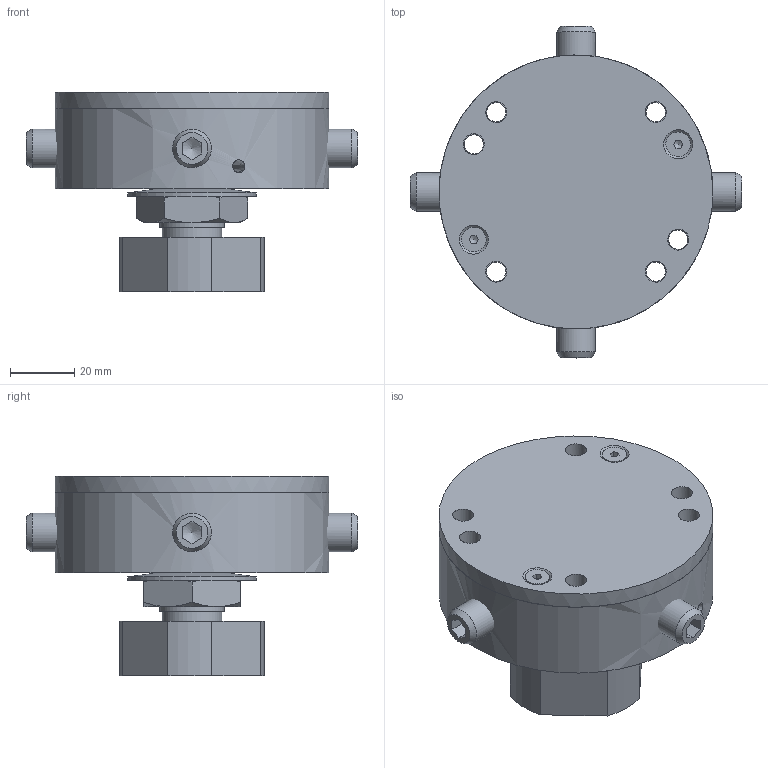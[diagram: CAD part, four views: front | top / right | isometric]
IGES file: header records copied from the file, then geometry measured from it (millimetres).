
Global section: file name: 325.00; native system: Autodesk Inventor 2016; preprocessor: unknown; author: AP; date: 20170321.161923; units: millimetre
Bounding box: 103 x 103 x 62 mm (x, y, z)
Volume: 184177.1 mm3; surface area: 63815.4 mm2
Topology: 12 solids, 12 shells, 184 faces, 484 edges, 328 vertices
Faces by surface type: bspline 184
